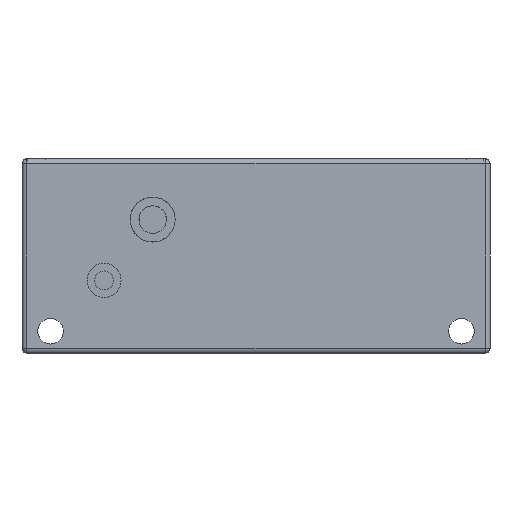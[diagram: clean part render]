
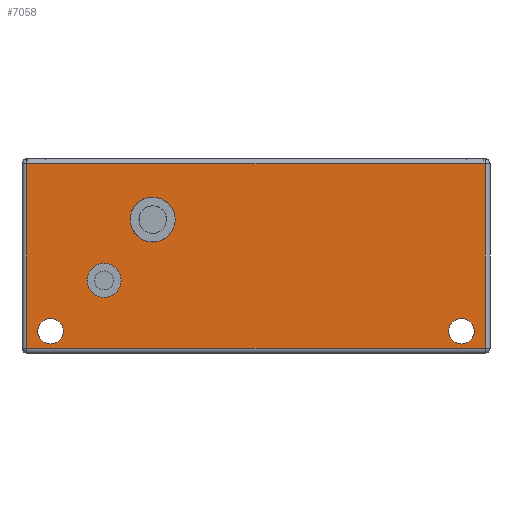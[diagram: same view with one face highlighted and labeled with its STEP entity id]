
A CAD part, front view. The second image highlights one B-rep face of the part: STEP entity #7058.
In plain terms, the highlighted planar face has unit normal (0, -1, 0).
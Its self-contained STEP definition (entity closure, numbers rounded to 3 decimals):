
#39 = VECTOR ( 'NONE', #8610, 1000. ) ;
#61 = EDGE_CURVE ( 'NONE', #1946, #8185, #195, .T. ) ;
#108 = ORIENTED_EDGE ( 'NONE', *, *, #1754, .F. ) ;
#114 = EDGE_CURVE ( 'NONE', #1782, #6381, #5962, .T. ) ;
#116 = DIRECTION ( 'NONE',  ( 0., -1., 0. ) ) ;
#195 = CIRCLE ( 'NONE', #2654, 2.1 ) ;
#196 = LINE ( 'NONE', #4945, #2963 ) ;
#298 = EDGE_CURVE ( 'NONE', #5660, #3894, #7149, .T. ) ;
#509 = CIRCLE ( 'NONE', #6291, 3.7 ) ;
#626 = AXIS2_PLACEMENT_3D ( 'NONE', #2836, #116, #8193 ) ;
#629 = VECTOR ( 'NONE', #3320, 1000. ) ;
#755 = EDGE_CURVE ( 'NONE', #8185, #1946, #7013, .T. ) ;
#781 = DIRECTION ( 'NONE',  ( 0., -1., 0. ) ) ;
#849 = EDGE_CURVE ( 'NONE', #7942, #2408, #4321, .T. ) ;
#925 = FACE_BOUND ( 'NONE', #4090, .T. ) ;
#940 = EDGE_CURVE ( 'NONE', #2408, #5480, #196, .T. ) ;
#943 = ORIENTED_EDGE ( 'NONE', *, *, #3439, .F. ) ;
#1325 = VERTEX_POINT ( 'NONE', #2261 ) ;
#1375 = CARTESIAN_POINT ( 'NONE',  ( 40.2, 1., -31.23 ) ) ;
#1462 = EDGE_LOOP ( 'NONE', ( #943, #2057 ) ) ;
#1549 = ORIENTED_EDGE ( 'NONE', *, *, #755, .F. ) ;
#1743 = AXIS2_PLACEMENT_3D ( 'NONE', #5163, #6446, #7806 ) ;
#1754 = EDGE_CURVE ( 'NONE', #6381, #1782, #509, .T. ) ;
#1782 = VERTEX_POINT ( 'NONE', #2927 ) ;
#1817 = ORIENTED_EDGE ( 'NONE', *, *, #61, .F. ) ;
#1897 = DIRECTION ( 'NONE',  ( 1., 0., 0. ) ) ;
#1946 = VERTEX_POINT ( 'NONE', #8719 ) ;
#2033 = ORIENTED_EDGE ( 'NONE', *, *, #7645, .T. ) ;
#2057 = ORIENTED_EDGE ( 'NONE', *, *, #2774, .F. ) ;
#2085 = ORIENTED_EDGE ( 'NONE', *, *, #298, .F. ) ;
#2143 = CARTESIAN_POINT ( 'NONE',  ( 143.954, 1., 68.27 ) ) ;
#2197 = DIRECTION ( 'NONE',  ( 1., 0., 0. ) ) ;
#2234 = DIRECTION ( 'NONE',  ( 1., 0., 0. ) ) ;
#2261 = CARTESIAN_POINT ( 'NONE',  ( -35.2, 1., -0.83 ) ) ;
#2408 = VERTEX_POINT ( 'NONE', #1375 ) ;
#2581 = CARTESIAN_POINT ( 'NONE',  ( -19.7, 1., -20.03 ) ) ;
#2654 = AXIS2_PLACEMENT_3D ( 'NONE', #8974, #7514, #7563 ) ;
#2757 = CARTESIAN_POINT ( 'NONE',  ( -14.5, 1., -10.03 ) ) ;
#2774 = EDGE_CURVE ( 'NONE', #8927, #7243, #8723, .T. ) ;
#2836 = CARTESIAN_POINT ( 'NONE',  ( 36.3, 1., -28.415 ) ) ;
#2927 = CARTESIAN_POINT ( 'NONE',  ( -10.8, 1., -10.03 ) ) ;
#2963 = VECTOR ( 'NONE', #2964, 1000. ) ;
#2964 = DIRECTION ( 'NONE',  ( 0., 0., 1. ) ) ;
#2966 = FACE_BOUND ( 'NONE', #1462, .T. ) ;
#3093 = CARTESIAN_POINT ( 'NONE',  ( 38.4, 1., -28.415 ) ) ;
#3186 = CARTESIAN_POINT ( 'NONE',  ( -25.3, 1., -20.03 ) ) ;
#3237 = AXIS2_PLACEMENT_3D ( 'NONE', #2757, #4174, #1897 ) ;
#3320 = DIRECTION ( 'NONE',  ( 0., 0., -1. ) ) ;
#3327 = DIRECTION ( 'NONE',  ( 1., 0., 0. ) ) ;
#3368 = CARTESIAN_POINT ( 'NONE',  ( 40.2, 1., -0.83 ) ) ;
#3439 = EDGE_CURVE ( 'NONE', #7243, #8927, #4063, .T. ) ;
#3502 = DIRECTION ( 'NONE',  ( 1., 0., 0. ) ) ;
#3514 = FACE_BOUND ( 'NONE', #8963, .T. ) ;
#3688 = VECTOR ( 'NONE', #8490, 1000. ) ;
#3695 = ORIENTED_EDGE ( 'NONE', *, *, #7497, .F. ) ;
#3757 = DIRECTION ( 'NONE',  ( 0., -1., 0. ) ) ;
#3807 = CARTESIAN_POINT ( 'NONE',  ( -35.2, 1., -0.83 ) ) ;
#3861 = ORIENTED_EDGE ( 'NONE', *, *, #5438, .T. ) ;
#3894 = VERTEX_POINT ( 'NONE', #3186 ) ;
#4040 = LINE ( 'NONE', #4137, #629 ) ;
#4063 = CIRCLE ( 'NONE', #1743, 2.1 ) ;
#4090 = EDGE_LOOP ( 'NONE', ( #2085, #3695 ) ) ;
#4137 = CARTESIAN_POINT ( 'NONE',  ( -35.2, 1., -32.03 ) ) ;
#4174 = DIRECTION ( 'NONE',  ( 0., -1., 0. ) ) ;
#4188 = ORIENTED_EDGE ( 'NONE', *, *, #849, .T. ) ;
#4261 = CARTESIAN_POINT ( 'NONE',  ( -35.2, 1., -31.23 ) ) ;
#4321 = LINE ( 'NONE', #5580, #3688 ) ;
#4399 = LINE ( 'NONE', #3807, #39 ) ;
#4766 = CARTESIAN_POINT ( 'NONE',  ( -31.3, 1., -28.415 ) ) ;
#4922 = ORIENTED_EDGE ( 'NONE', *, *, #114, .F. ) ;
#4945 = CARTESIAN_POINT ( 'NONE',  ( 40.2, 1., -0.83 ) ) ;
#5163 = CARTESIAN_POINT ( 'NONE',  ( 36.3, 1., -28.415 ) ) ;
#5290 = CARTESIAN_POINT ( 'NONE',  ( -33.4, 1., -28.415 ) ) ;
#5438 = EDGE_CURVE ( 'NONE', #1325, #7942, #4040, .T. ) ;
#5480 = VERTEX_POINT ( 'NONE', #3368 ) ;
#5580 = CARTESIAN_POINT ( 'NONE',  ( 143.954, 1., -31.23 ) ) ;
#5660 = VERTEX_POINT ( 'NONE', #2581 ) ;
#5692 = AXIS2_PLACEMENT_3D ( 'NONE', #7109, #3757, #7323 ) ;
#5717 = PLANE ( 'NONE',  #6394 ) ;
#5962 = CIRCLE ( 'NONE', #3237, 3.7 ) ;
#6102 = CIRCLE ( 'NONE', #6834, 2.8 ) ;
#6244 = EDGE_LOOP ( 'NONE', ( #4922, #108 ) ) ;
#6260 = FACE_BOUND ( 'NONE', #6244, .T. ) ;
#6291 = AXIS2_PLACEMENT_3D ( 'NONE', #8542, #6318, #2197 ) ;
#6318 = DIRECTION ( 'NONE',  ( 0., -1., 0. ) ) ;
#6381 = VERTEX_POINT ( 'NONE', #6630 ) ;
#6394 = AXIS2_PLACEMENT_3D ( 'NONE', #2143, #8531, #2234 ) ;
#6446 = DIRECTION ( 'NONE',  ( 0., -1., 0. ) ) ;
#6507 = EDGE_LOOP ( 'NONE', ( #2033, #3861, #4188, #7325 ) ) ;
#6630 = CARTESIAN_POINT ( 'NONE',  ( -18.2, 1., -10.03 ) ) ;
#6834 = AXIS2_PLACEMENT_3D ( 'NONE', #6985, #781, #3502 ) ;
#6985 = CARTESIAN_POINT ( 'NONE',  ( -22.5, 1., -20.03 ) ) ;
#7013 = CIRCLE ( 'NONE', #8161, 2.1 ) ;
#7058 = ADVANCED_FACE ( 'NONE', ( #3514, #2966, #7763, #6260, #925 ), #5717, .T. ) ;
#7109 = CARTESIAN_POINT ( 'NONE',  ( -22.5, 1., -20.03 ) ) ;
#7149 = CIRCLE ( 'NONE', #5692, 2.8 ) ;
#7243 = VERTEX_POINT ( 'NONE', #3093 ) ;
#7323 = DIRECTION ( 'NONE',  ( 1., 0., 0. ) ) ;
#7325 = ORIENTED_EDGE ( 'NONE', *, *, #940, .T. ) ;
#7497 = EDGE_CURVE ( 'NONE', #3894, #5660, #6102, .T. ) ;
#7514 = DIRECTION ( 'NONE',  ( 0., -1., 0. ) ) ;
#7563 = DIRECTION ( 'NONE',  ( 1., 0., 0. ) ) ;
#7645 = EDGE_CURVE ( 'NONE', #5480, #1325, #4399, .T. ) ;
#7763 = FACE_OUTER_BOUND ( 'NONE', #6507, .T. ) ;
#7806 = DIRECTION ( 'NONE',  ( 1., 0., 0. ) ) ;
#7942 = VERTEX_POINT ( 'NONE', #4261 ) ;
#8161 = AXIS2_PLACEMENT_3D ( 'NONE', #4766, #8259, #3327 ) ;
#8185 = VERTEX_POINT ( 'NONE', #5290 ) ;
#8193 = DIRECTION ( 'NONE',  ( 1., 0., 0. ) ) ;
#8259 = DIRECTION ( 'NONE',  ( 0., -1., 0. ) ) ;
#8490 = DIRECTION ( 'NONE',  ( 1., 0., 0. ) ) ;
#8531 = DIRECTION ( 'NONE',  ( 0., -1., 0. ) ) ;
#8542 = CARTESIAN_POINT ( 'NONE',  ( -14.5, 1., -10.03 ) ) ;
#8548 = CARTESIAN_POINT ( 'NONE',  ( 34.2, 1., -28.415 ) ) ;
#8610 = DIRECTION ( 'NONE',  ( -1., 0., 0. ) ) ;
#8719 = CARTESIAN_POINT ( 'NONE',  ( -29.2, 1., -28.415 ) ) ;
#8723 = CIRCLE ( 'NONE', #626, 2.1 ) ;
#8927 = VERTEX_POINT ( 'NONE', #8548 ) ;
#8963 = EDGE_LOOP ( 'NONE', ( #1817, #1549 ) ) ;
#8974 = CARTESIAN_POINT ( 'NONE',  ( -31.3, 1., -28.415 ) ) ;
